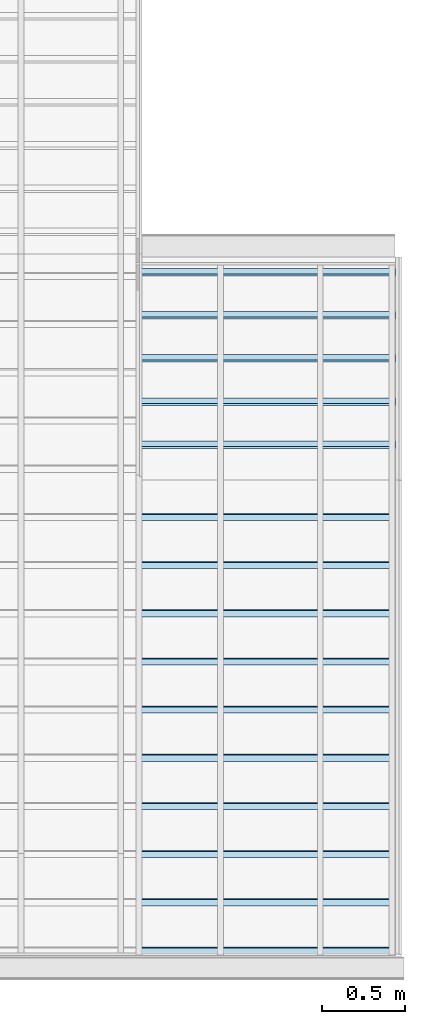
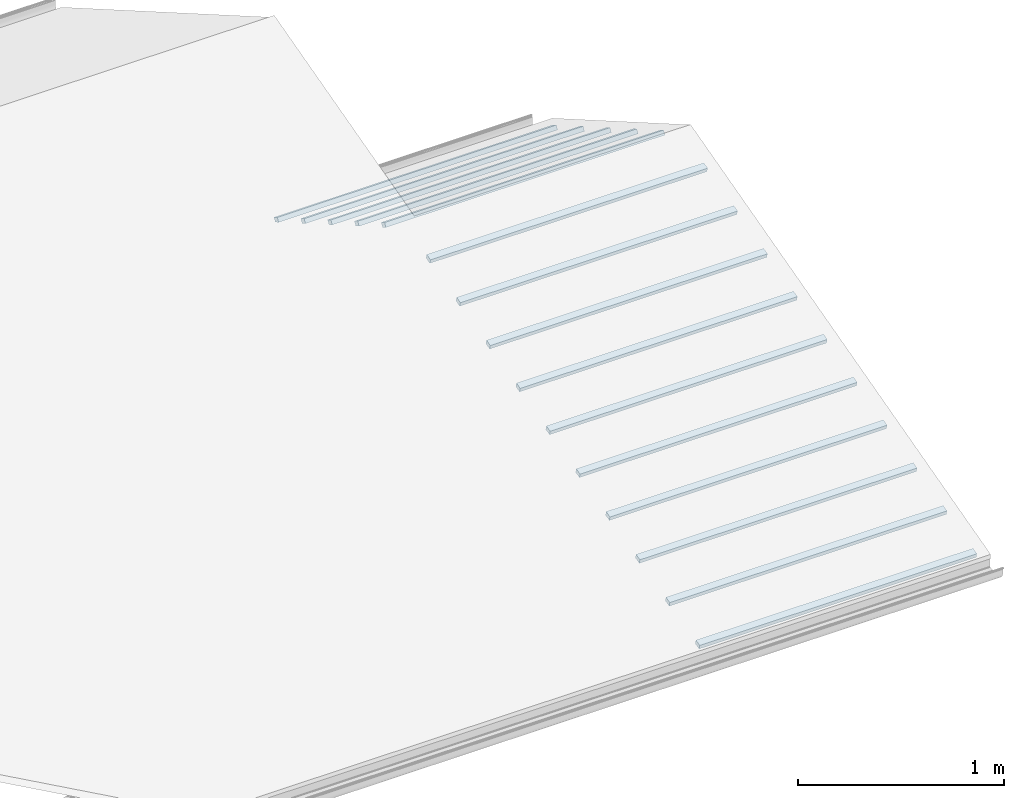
# One storey, part 9 of 12: 2 slabs.
"""IFC2X3 building model written with IfcOpenShell, lengths in millimetres."""

from ifc_helpers import new_model, entity, si_unit, converted_unit, money_unit, direction, frame, origin_with_axes, place, context, subcontext, project, spatial, faceted_brep, source, transform, mapped, material, type_object, element, save


model = new_model("IFC2X3")

# Units and contexts
model_context = context("Model", 3, precision=1e-05, world=origin_with_axes(), true_north=direction((0.0, 1.0)))
body_context = subcontext(model_context, "Body", "Model", "MODEL_VIEW")
ifc_project = project(units=[si_unit("LENGTHUNIT", "METRE", prefix="MILLI"), si_unit("AREAUNIT", "SQUARE_METRE"), si_unit("VOLUMEUNIT", "CUBIC_METRE"), converted_unit("PLANEANGLEUNIT", "DEGREE", entity("IfcPlaneAngleMeasure", 0.0174532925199), si_unit("PLANEANGLEUNIT", "RADIAN"), dimensions=[0, 0, 0, 0, 0, 0, 0]), si_unit("SOLIDANGLEUNIT", "STERADIAN"), money_unit("AUD"), si_unit("TIMEUNIT", "SECOND"), si_unit("MASSUNIT", "GRAM"), si_unit("THERMODYNAMICTEMPERATUREUNIT", "DEGREE_CELSIUS"), si_unit("LUMINOUSINTENSITYUNIT", "LUMEN")], contexts=[model_context])

# Site, building, storey
site_placement = place(None, origin_with_axes())
site = spatial("IfcSite", under=ifc_project, at=site_placement, Name="Lot 1. East Hills", CompositionType="ELEMENT")
building_placement = place(site_placement, origin_with_axes())
building = spatial("IfcBuilding", under=site, at=building_placement, Name="Proposed Units 7 & 8", CompositionType="ELEMENT")
storey_placement = place(building_placement, frame((0.0, 0.0, 8395.0), z_axis=(0.0, 0.0, 1.0), x_axis=(1.0, 0.0, 0.0)))
storey = spatial("IfcBuildingStorey", under=building, at=storey_placement, Name="Roof", CompositionType="ELEMENT", Elevation=8395.0)

# Slabs
ifc_material = material(Name="50 %")
slab_type = type_object("IfcSlabType", Name="Battens for Roof Tiles 12", PredefinedType="NOTDEFINED")
shared_shape_1 = source(origin_with_axes(), body_context, "Body", "Brep", [
    faceted_brep([(0.0, 0.0, 0.0), (1550.0, 0.0, 0.0), (1550.0, -6.47047612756, 24.1481456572), (0.0, -6.47047612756, 24.1481456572), (0.0, 36.705181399, 9.8351237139), (1550.0, 36.705181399, 9.8351237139), (1550.0, 30.2347052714, 33.9832693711), (0.0, 30.2347052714, 33.9832693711)], [[[0, 1, 2, 3]], [[0, 4, 5, 1]], [[1, 5, 6, 2]], [[3, 2, 6, 7]], [[4, 0, 3, 7]], [[5, 4, 7, 6]]]),
    faceted_brep([(0.0, 289.777747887, 77.6457135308), (1550.0, 289.777747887, 77.6457135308), (1550.0, 283.307271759, 101.793859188), (0.0, 283.307271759, 101.793859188), (0.0, 326.482929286, 87.4808372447), (1550.0, 326.482929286, 87.4808372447), (1550.0, 320.012453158, 111.628982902), (0.0, 320.012453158, 111.628982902)], [[[0, 1, 2, 3]], [[0, 4, 5, 1]], [[1, 5, 6, 2]], [[3, 2, 6, 7]], [[4, 0, 3, 7]], [[5, 4, 7, 6]]]),
    faceted_brep([(0.0, 579.555495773, 155.291427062), (1550.0, 579.555495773, 155.291427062), (1550.0, 573.085019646, 179.439572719), (0.0, 573.085019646, 179.439572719), (0.0, 616.260677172, 165.126550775), (1550.0, 616.260677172, 165.126550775), (1550.0, 609.790201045, 189.274696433), (0.0, 609.790201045, 189.274696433)], [[[0, 1, 2, 3]], [[0, 4, 5, 1]], [[1, 5, 6, 2]], [[3, 2, 6, 7]], [[4, 0, 3, 7]], [[5, 4, 7, 6]]]),
    faceted_brep([(0.0, 869.33324366, 232.937140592), (1550.0, 869.33324366, 232.937140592), (1550.0, 862.862767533, 257.085286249), (0.0, 862.862767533, 257.085286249), (0.0, 906.038425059, 242.772264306), (1550.0, 906.038425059, 242.772264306), (1550.0, 899.567948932, 266.920409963), (0.0, 899.567948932, 266.920409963)], [[[0, 1, 2, 3]], [[0, 4, 5, 1]], [[1, 5, 6, 2]], [[3, 2, 6, 7]], [[4, 0, 3, 7]], [[5, 4, 7, 6]]]),
    faceted_brep([(0.0, 1159.11099155, 310.582854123), (1550.0, 1159.11099155, 310.582854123), (1550.0, 1152.64051542, 334.73099978), (0.0, 1152.64051542, 334.73099978), (0.0, 1195.81617295, 320.417977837), (1550.0, 1195.81617295, 320.417977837), (1550.0, 1189.34569682, 344.566123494), (0.0, 1189.34569682, 344.566123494)], [[[0, 1, 2, 3]], [[0, 4, 5, 1]], [[1, 5, 6, 2]], [[3, 2, 6, 7]], [[4, 0, 3, 7]], [[5, 4, 7, 6]]]),
    faceted_brep([(0.0, 1448.88873943, 388.228567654), (1550.0, 1448.88873943, 388.228567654), (1550.0, 1442.41826331, 412.376713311), (0.0, 1442.41826331, 412.376713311), (0.0, 1485.59392083, 398.063691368), (1550.0, 1485.59392083, 398.063691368), (1550.0, 1479.12344471, 422.211837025), (0.0, 1479.12344471, 422.211837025)], [[[0, 1, 2, 3]], [[0, 4, 5, 1]], [[1, 5, 6, 2]], [[3, 2, 6, 7]], [[4, 0, 3, 7]], [[5, 4, 7, 6]]]),
    faceted_brep([(0.0, 1738.66648732, 465.874281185), (1550.0, 1738.66648732, 465.874281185), (1550.0, 1732.19601119, 490.022426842), (0.0, 1732.19601119, 490.022426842), (0.0, 1775.37166872, 475.709404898), (1550.0, 1775.37166872, 475.709404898), (1550.0, 1768.90119259, 499.857550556), (0.0, 1768.90119259, 499.857550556)], [[[0, 1, 2, 3]], [[0, 4, 5, 1]], [[1, 5, 6, 2]], [[3, 2, 6, 7]], [[4, 0, 3, 7]], [[5, 4, 7, 6]]]),
    faceted_brep([(0.0, 2028.44423521, 543.519994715), (1550.0, 2028.44423521, 543.519994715), (1550.0, 2021.97375908, 567.668140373), (0.0, 2021.97375908, 567.668140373), (0.0, 2065.14941661, 553.355118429), (1550.0, 2065.14941661, 553.355118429), (1550.0, 2058.67894048, 577.503264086), (0.0, 2058.67894048, 577.503264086)], [[[0, 1, 2, 3]], [[0, 4, 5, 1]], [[1, 5, 6, 2]], [[3, 2, 6, 7]], [[4, 0, 3, 7]], [[5, 4, 7, 6]]]),
    faceted_brep([(0.0, 2318.22198309, 621.165708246), (1550.0, 2318.22198309, 621.165708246), (1550.0, 2311.75150697, 645.313853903), (0.0, 2311.75150697, 645.313853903), (0.0, 2354.92716449, 631.00083196), (1550.0, 2354.92716449, 631.00083196), (1550.0, 2348.45668837, 655.148977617), (0.0, 2348.45668837, 655.148977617)], [[[0, 1, 2, 3]], [[0, 4, 5, 1]], [[1, 5, 6, 2]], [[3, 2, 6, 7]], [[4, 0, 3, 7]], [[5, 4, 7, 6]]]),
    faceted_brep([(0.0, 2607.99973098, 698.811421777), (1550.0, 2607.99973098, 698.811421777), (1550.0, 2601.52925485, 722.959567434), (0.0, 2601.52925485, 722.959567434), (0.0, 2644.70491238, 708.646545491), (1550.0, 2644.70491238, 708.646545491), (1550.0, 2638.23443625, 732.794691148), (0.0, 2638.23443625, 732.794691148)], [[[0, 1, 2, 3]], [[0, 4, 5, 1]], [[1, 5, 6, 2]], [[3, 2, 6, 7]], [[4, 0, 3, 7]], [[5, 4, 7, 6]]]),
])
slab_1_placement = place(storey_placement, frame((15830.0, -602.015700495, -83.12796424), z_axis=(0.0, 0.0, 1.0), x_axis=(1.0, 0.0, 0.0)))
element("IfcSlab", 1, at=slab_1_placement, inside=storey, type_object=slab_type, material=ifc_material, Name="BATTEN_02 - Battens for Roof Tiles 12 - object -", PredefinedType="ROOF", context=body_context, shape_type="MappedRepresentation", body=[
    mapped(shared_shape_1, transform((0.0, 0.0, 0.0))),
])
shared_shape_2 = source(origin_with_axes(), body_context, "Body", "Brep", [
    faceted_brep([(0.0, 0.0, 0.0), (0.0, -12.5, 21.6506350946), (-1560.67944814, -12.5, 21.6506350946), (-1560.67944814, 0.0, 0.0), (0.0, 32.9089653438, 19.0), (0.0, 20.4089653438, 40.6506350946), (-1560.67944814, 20.4089653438, 40.6506350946), (-1560.67944814, 32.9089653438, 19.0)], [[[0, 1, 2, 3]], [[4, 5, 1, 0]], [[1, 5, 6, 2]], [[3, 2, 6, 7]], [[0, 3, 7, 4]], [[7, 6, 5, 4]]]),
    faceted_brep([(0.0, 259.807621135, 150.0), (0.0, 247.307621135, 171.650635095), (-1560.67944814, 247.307621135, 171.650635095), (-1560.67944814, 259.807621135, 150.0), (0.0, 292.716586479, 169.0), (0.0, 280.216586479, 190.650635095), (-1560.67944814, 280.216586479, 190.650635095), (-1560.67944814, 292.716586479, 169.0)], [[[0, 1, 2, 3]], [[4, 5, 1, 0]], [[1, 5, 6, 2]], [[3, 2, 6, 7]], [[0, 3, 7, 4]], [[7, 6, 5, 4]]]),
    faceted_brep([(0.0, 519.615242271, 300.0), (0.0, 507.115242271, 321.650635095), (-1560.67944814, 507.115242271, 321.650635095), (-1560.67944814, 519.615242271, 300.0), (0.0, 552.524207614, 319.0), (0.0, 540.024207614, 340.650635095), (-1560.67944814, 540.024207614, 340.650635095), (-1560.67944814, 552.524207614, 319.0)], [[[0, 1, 2, 3]], [[4, 5, 1, 0]], [[1, 5, 6, 2]], [[3, 2, 6, 7]], [[0, 3, 7, 4]], [[7, 6, 5, 4]]]),
    faceted_brep([(0.0, 779.422863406, 450.0), (0.0, 766.922863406, 471.650635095), (-1560.67944814, 766.922863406, 471.650635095), (-1560.67944814, 779.422863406, 450.0), (0.0, 812.33182875, 469.0), (0.0, 799.83182875, 490.650635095), (-1560.67944814, 799.83182875, 490.650635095), (-1560.67944814, 812.33182875, 469.0)], [[[0, 1, 2, 3]], [[4, 5, 1, 0]], [[1, 5, 6, 2]], [[3, 2, 6, 7]], [[0, 3, 7, 4]], [[7, 6, 5, 4]]]),
    faceted_brep([(0.0, 1039.23048454, 600.0), (0.0, 1026.73048454, 621.650635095), (-1560.67944814, 1026.73048454, 621.650635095), (-1560.67944814, 1039.23048454, 600.0), (0.0, 1072.13944989, 619.0), (0.0, 1059.63944989, 640.650635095), (-1560.67944814, 1059.63944989, 640.650635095), (-1560.67944814, 1072.13944989, 619.0)], [[[0, 1, 2, 3]], [[4, 5, 1, 0]], [[1, 5, 6, 2]], [[3, 2, 6, 7]], [[0, 3, 7, 4]], [[7, 6, 5, 4]]]),
])
slab_2_placement = place(storey_placement, frame((15830.0, 3503.60250319, -48.909277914), z_axis=(0.0, 0.0, 1.0), x_axis=(-1.0, 0.0, 0.0)))
element("IfcSlab", 2, at=slab_2_placement, inside=storey, type_object=slab_type, material=ifc_material, Name="BATTEN_01 - Battens for Roof Tiles 12 - object -", PredefinedType="ROOF", context=body_context, shape_type="MappedRepresentation", body=[
    mapped(shared_shape_2, transform((0.0, 0.0, 0.0))),
])

save(model, "model.ifc")
